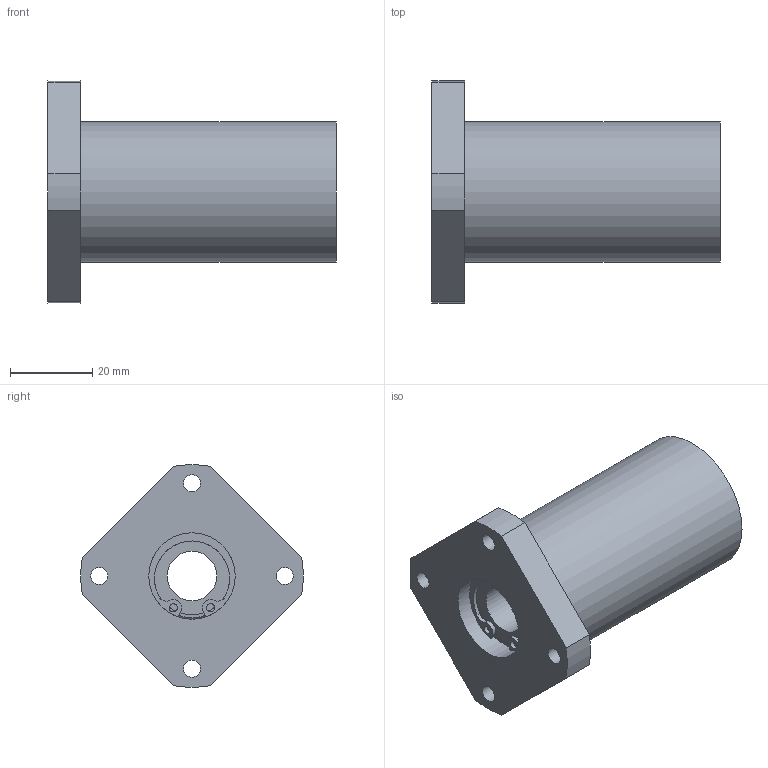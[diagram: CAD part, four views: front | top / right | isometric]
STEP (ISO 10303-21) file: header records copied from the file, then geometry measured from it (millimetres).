
FILE_DESCRIPTION((''),'2;1');
FILE_NAME('D:\製品 (図面)\カタログ用3D\リニアベアリング関連(改)\STEP形式\LFWK\LFWK12.stp','2010-01-22T15:53:04',('Tsuchiya'),(''),'Autodesk Inventor 10','Autodesk Inventor 10','');
FILE_SCHEMA(('AUTOMOTIVE_DESIGN { 1 0 10303 214 1 1 1 1 }'));
Length unit declared in the file: millimetre
Products named in the file (1): LFWK12
Bounding box: 70 x 53.92 x 53.92 mm (x, y, z)
Volume: 60438.1 mm3; surface area: 16601.7 mm2
Topology: 1 solids, 6 shells, 86 faces, 212 edges, 133 vertices
Faces by surface type: bspline 31, cylinder 28, plane 25, torus 2
Full cylindrical faces by diameter (mm): 2 x2, 4.134 x4, 12 x1, 18.8 x2, 20 x2, 21 x7, 34 x1
Entity records: 2574 total; most frequent: CARTESIAN_POINT 698, DIRECTION 394, ORIENTED_EDGE 330, AXIS2_PLACEMENT_3D 173, EDGE_CURVE 165, EDGE_LOOP 144, VERTEX_POINT 117, CIRCLE 117
